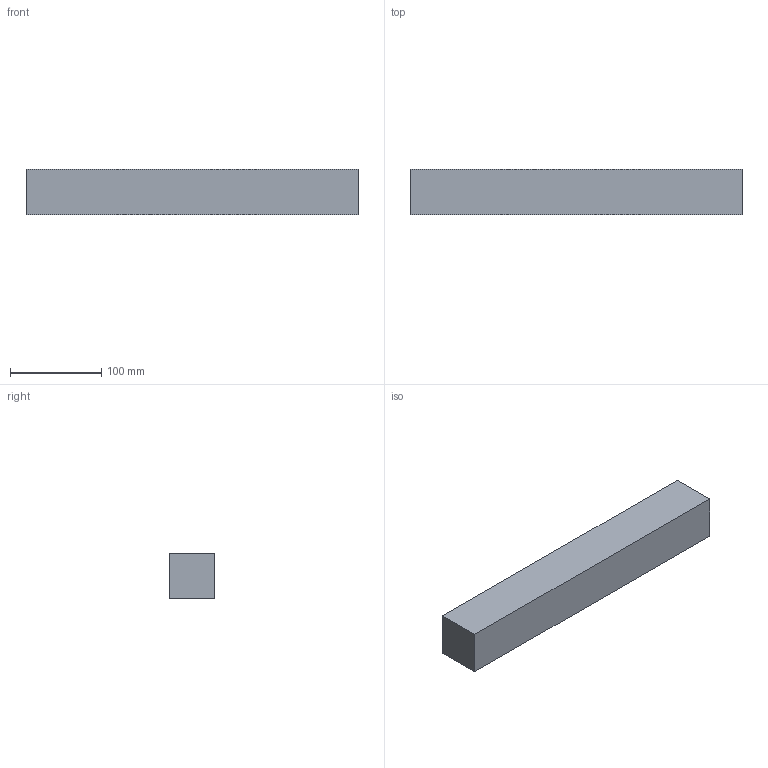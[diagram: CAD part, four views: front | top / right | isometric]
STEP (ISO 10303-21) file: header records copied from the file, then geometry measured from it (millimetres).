
FILE_DESCRIPTION(('Open CASCADE Model'),'2;1');
FILE_NAME('Open CASCADE Shape Model','2026-09-28T10:14:20',('Author'),( 'Open CASCADE'),'Open CASCADE STEP processor 7.9','Open CASCADE 7.9' ,'Unknown');
FILE_SCHEMA(('AUTOMOTIVE_DESIGN { 1 0 10303 214 1 1 1 1 }'));
Length unit declared in the file: millimetre
Products named in the file (1): Open CASCADE STEP translator 7.9 41
Bounding box: 364 x 50 x 50 mm (x, y, z)
Volume: 910000 mm3; surface area: 77800 mm2
Topology: 1 solids, 1 shells, 6 faces, 12 edges, 8 vertices
Faces by surface type: plane 6
Entity records: 322 total; most frequent: CARTESIAN_POINT 51, DIRECTION 50, LINE 36, VECTOR 36, ORIENTED_EDGE 24, PCURVE 24, DEFINITIONAL_REPRESENTATION 24, EDGE_CURVE 12
